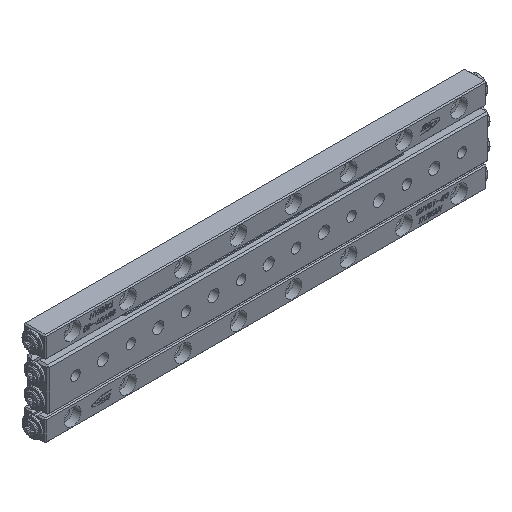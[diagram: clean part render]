
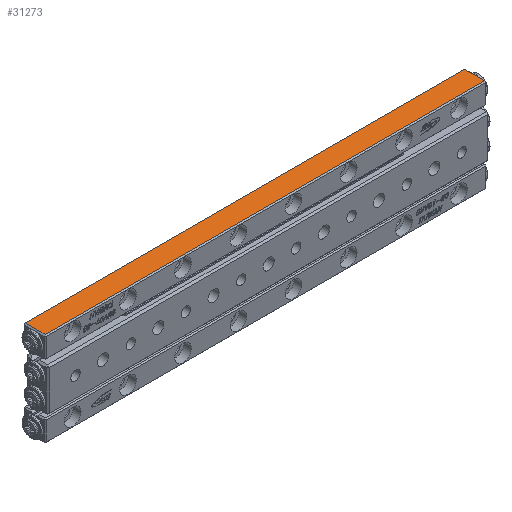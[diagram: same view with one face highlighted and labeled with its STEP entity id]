
A CAD part, isometric view. The second image highlights one B-rep face of the part: STEP entity #31273.
In plain terms, the highlighted planar face has unit normal (0, 0, 1) as drawn and (0, 0, -1) by its records, which use the part's own axes.
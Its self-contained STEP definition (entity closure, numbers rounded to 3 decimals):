
#268 = DIRECTION ( 'NONE',  ( 0., -1., 0. ) ) ;
#3943 = VECTOR ( 'NONE', #268, 1000. ) ;
#3962 = PLANE ( 'NONE',  #19864 ) ;
#8065 = DIRECTION ( 'NONE',  ( -1., 0., 0. ) ) ;
#8297 = EDGE_CURVE ( 'NONE', #19919, #8667, #35937, .T. ) ;
#8667 = VERTEX_POINT ( 'NONE', #22426 ) ;
#8849 = DIRECTION ( 'NONE',  ( 0., 1., 0. ) ) ;
#10068 = VERTEX_POINT ( 'NONE', #33751 ) ;
#12417 = CARTESIAN_POINT ( 'NONE',  ( -40., -2., 0. ) ) ;
#13217 = ORIENTED_EDGE ( 'NONE', *, *, #23689, .T. ) ;
#13317 = VECTOR ( 'NONE', #33324, 1000. ) ;
#15836 = DIRECTION ( 'NONE',  ( 0., 1., 0. ) ) ;
#18875 = EDGE_CURVE ( 'NONE', #8667, #32704, #19444, .T. ) ;
#19337 = CARTESIAN_POINT ( 'NONE',  ( -40., -1.8, 0. ) ) ;
#19444 = LINE ( 'NONE', #22989, #3943 ) ;
#19864 = AXIS2_PLACEMENT_3D ( 'NONE', #12417, #23300, #8849 ) ;
#19919 = VERTEX_POINT ( 'NONE', #35740 ) ;
#20862 = FACE_OUTER_BOUND ( 'NONE', #22878, .T. ) ;
#20949 = ORIENTED_EDGE ( 'NONE', *, *, #24726, .T. ) ;
#22426 = CARTESIAN_POINT ( 'NONE',  ( 39.8, 1.8, 0. ) ) ;
#22878 = EDGE_LOOP ( 'NONE', ( #23391, #28326, #13217, #20949 ) ) ;
#22989 = CARTESIAN_POINT ( 'NONE',  ( 39.8, -2., 0. ) ) ;
#23300 = DIRECTION ( 'NONE',  ( 0., 0., -1. ) ) ;
#23391 = ORIENTED_EDGE ( 'NONE', *, *, #8297, .T. ) ;
#23601 = VECTOR ( 'NONE', #15836, 1000. ) ;
#23689 = EDGE_CURVE ( 'NONE', #32704, #10068, #24755, .T. ) ;
#24158 = VECTOR ( 'NONE', #8065, 1000. ) ;
#24726 = EDGE_CURVE ( 'NONE', #10068, #19919, #32685, .T. ) ;
#24755 = LINE ( 'NONE', #19337, #24158 ) ;
#28326 = ORIENTED_EDGE ( 'NONE', *, *, #18875, .T. ) ;
#29230 = CARTESIAN_POINT ( 'NONE',  ( 39.8, -1.8, 0. ) ) ;
#31273 = ADVANCED_FACE ( 'NONE', ( #20862 ), #3962, .T. ) ;
#32685 = LINE ( 'NONE', #33230, #23601 ) ;
#32704 = VERTEX_POINT ( 'NONE', #29230 ) ;
#33147 = CARTESIAN_POINT ( 'NONE',  ( -40., 1.8, 0. ) ) ;
#33230 = CARTESIAN_POINT ( 'NONE',  ( -39.8, 2., 0. ) ) ;
#33324 = DIRECTION ( 'NONE',  ( 1., 0., 0. ) ) ;
#33751 = CARTESIAN_POINT ( 'NONE',  ( -39.8, -1.8, 0. ) ) ;
#35740 = CARTESIAN_POINT ( 'NONE',  ( -39.8, 1.8, 0. ) ) ;
#35937 = LINE ( 'NONE', #33147, #13317 ) ;
